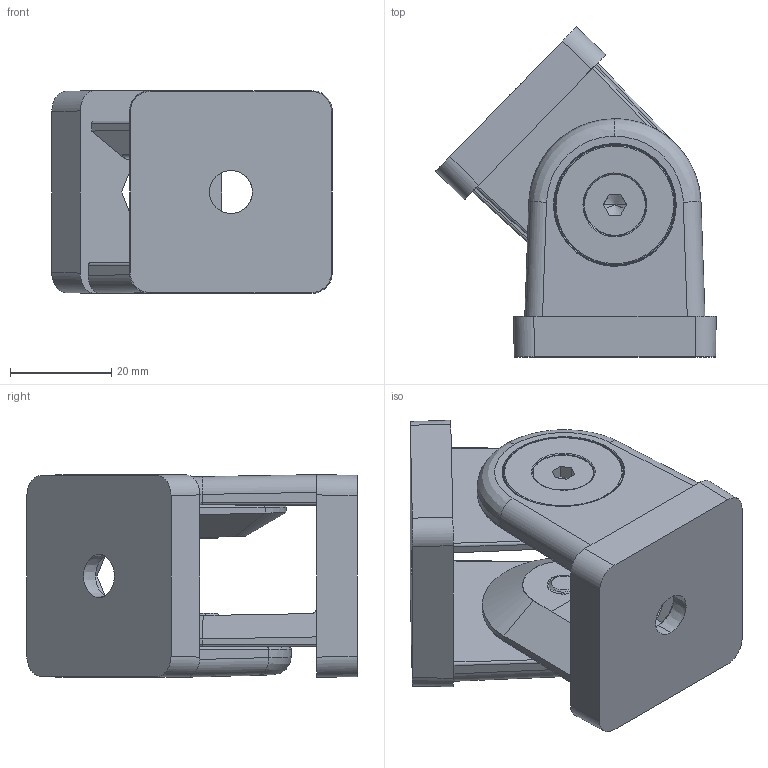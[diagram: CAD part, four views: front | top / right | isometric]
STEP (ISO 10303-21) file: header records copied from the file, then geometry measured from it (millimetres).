
FILE_DESCRIPTION (( 'STEP AP203' ), '1' );
FILE_NAME ('TCFJ40 Stay Bracket (01-06-2021).STEP', '2021-06-01T06:09:11', ( '' ), ( '' ), 'SwSTEP 2.0', 'SolidWorks 2020', '' );
FILE_SCHEMA (( 'CONFIG_CONTROL_DESIGN' ));
Length unit declared in the file: millimetre
Products named in the file (4): Copy of MB00034001^TCFJ40 Stay Bracket; Copy of MB00963101^TCFJ40 Stay Bracket; TCFJ40 Stay Bracket (01-06-2021); Copy of MB00960801^TCFJ40 Stay Bracket
Assembly tree (6 placements, depth 2):
  TCFJ40 Stay Bracket (01-06-2021)
    Copy of MB00963101^TCFJ40 Stay Bracket  x2
    Copy of MB00960801^TCFJ40 Stay Bracket  x2
    Copy of MB00034001^TCFJ40 Stay Bracket  x2
Bounding box: 55.35 x 65.16 x 40 mm (x, y, z)
Volume: 47177 mm3; surface area: 22261.4 mm2
Topology: 6 solids, 6 shells, 292 faces, 698 edges, 430 vertices
Faces by surface type: plane 110, cylinder 92, bspline 50, cone 40
Entity records: 6087 total; most frequent: CARTESIAN_POINT 2373, ORIENTED_EDGE 694, DIRECTION 653, EDGE_CURVE 347, AXIS2_PLACEMENT_3D 248, VERTEX_POINT 215, EDGE_LOOP 162, LINE 157
